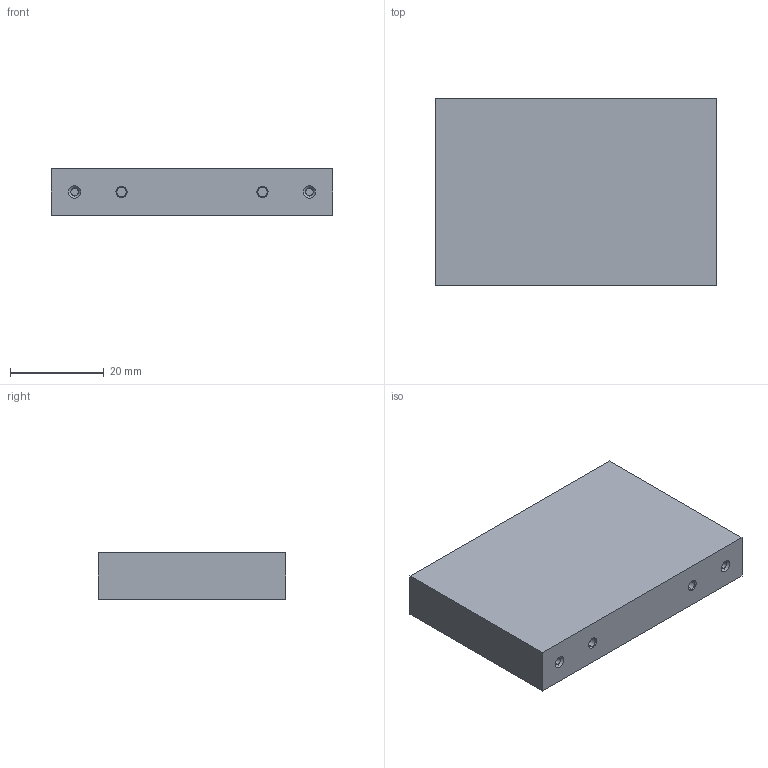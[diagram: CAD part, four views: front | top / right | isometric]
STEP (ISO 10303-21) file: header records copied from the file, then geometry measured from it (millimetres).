
FILE_DESCRIPTION (( 'STEP AP214' ), '1' );
FILE_NAME ('C4_2_.STEP', '2016-02-27T12:44:56', ( '' ), ( '' ), 'SwSTEP 2.0', 'SolidWorks 2012', '' );
FILE_SCHEMA (( 'AUTOMOTIVE_DESIGN' ));
Length unit declared in the file: millimetre
Products named in the file (1): C4_2_
Bounding box: 60 x 40 x 10 mm (x, y, z)
Volume: 23787.9 mm3; surface area: 7260.3 mm2
Topology: 1 solids, 1 shells, 101 faces, 236 edges, 152 vertices
Faces by surface type: plane 46, bspline 23, cone 16, cylinder 16
Entity records: 4226 total; most frequent: CARTESIAN_POINT 1993, ORIENTED_EDGE 472, DIRECTION 396, EDGE_CURVE 236, VERTEX_POINT 152, LINE 142, VECTOR 142, AXIS2_PLACEMENT_3D 127
